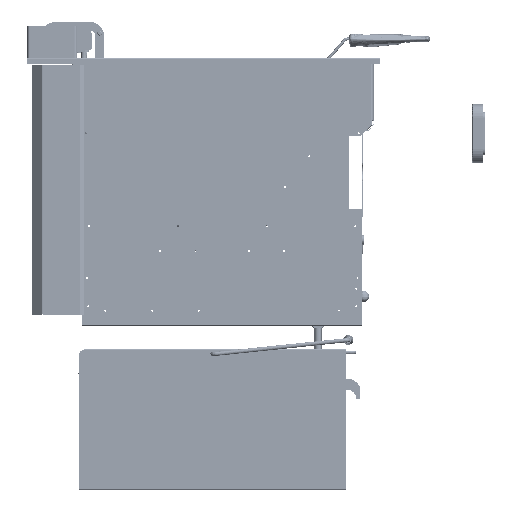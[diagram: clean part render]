
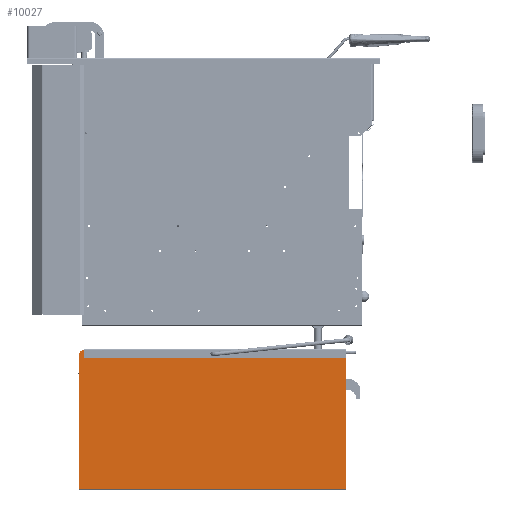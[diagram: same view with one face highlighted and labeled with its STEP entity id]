
A CAD part, left-side view. The second image highlights one B-rep face of the part: STEP entity #10027.
In plain terms, the highlighted planar face has unit normal (-1, 0, 0).
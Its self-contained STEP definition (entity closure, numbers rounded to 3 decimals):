
#1900=FACE_BOUND('',#29755,.T.);
#10027=ADVANCED_FACE('',(#19567,#1900),#154611,.T.);
#19567=FACE_OUTER_BOUND('',#29754,.T.);
#29754=EDGE_LOOP('',(#67554,#67555,#67556,#67557,#67558,#67559,#67560));
#29755=EDGE_LOOP('',(#67561,#67562));
#67554=ORIENTED_EDGE('',*,*,#98431,.F.);
#67555=ORIENTED_EDGE('',*,*,#98510,.F.);
#67556=ORIENTED_EDGE('',*,*,#98424,.F.);
#67557=ORIENTED_EDGE('',*,*,#98432,.F.);
#67558=ORIENTED_EDGE('',*,*,#98433,.F.);
#67559=ORIENTED_EDGE('',*,*,#98434,.F.);
#67560=ORIENTED_EDGE('',*,*,#98435,.F.);
#67561=ORIENTED_EDGE('',*,*,#98405,.T.);
#67562=ORIENTED_EDGE('',*,*,#98466,.F.);
#98405=EDGE_CURVE('',#147664,#147665,#126395,.T.);
#98424=EDGE_CURVE('',#147684,#147686,#116093,.T.);
#98431=EDGE_CURVE('',#147692,#147693,#116100,.T.);
#98432=EDGE_CURVE('',#147691,#147684,#116101,.T.);
#98433=EDGE_CURVE('',#147694,#147691,#116102,.T.);
#98434=EDGE_CURVE('',#147695,#147694,#116103,.T.);
#98435=EDGE_CURVE('',#147693,#147695,#116104,.T.);
#98466=EDGE_CURVE('',#147664,#147665,#126409,.T.);
#98510=EDGE_CURVE('',#147686,#147692,#126423,.T.);
#116093=B_SPLINE_CURVE_WITH_KNOTS('',1,(#437763,#437764),.UNSPECIFIED.,
 .F.,.F.,(2,2),(0.,227.),.UNSPECIFIED.);
#116100=B_SPLINE_CURVE_WITH_KNOTS('',1,(#437777,#437778),.UNSPECIFIED.,
 .F.,.F.,(2,2),(-0.5,0.),.UNSPECIFIED.);
#116101=B_SPLINE_CURVE_WITH_KNOTS('',1,(#437779,#437780),.UNSPECIFIED.,
 .F.,.F.,(2,2),(-455.,0.),.UNSPECIFIED.);
#116102=B_SPLINE_CURVE_WITH_KNOTS('',1,(#437781,#437782),.UNSPECIFIED.,
 .F.,.F.,(2,2),(-236.4,0.),.UNSPECIFIED.);
#116103=B_SPLINE_CURVE_WITH_KNOTS('',1,(#437783,#437784),.UNSPECIFIED.,
 .F.,.F.,(2,2),(-446.5,0.),.UNSPECIFIED.);
#116104=B_SPLINE_CURVE_WITH_KNOTS('',1,(#437785,#437786),.UNSPECIFIED.,
 .F.,.F.,(2,2),(-1.4,0.),.UNSPECIFIED.);
#126395=TRIMMED_CURVE($,#134639,(#437722),(#437723),.T.,.CARTESIAN.);
#126409=TRIMMED_CURVE($,#134653,(#437858),(#437859),.T.,.CARTESIAN.);
#126423=TRIMMED_CURVE($,#134667,(#437960),(#437961),.T.,.CARTESIAN.);
#134639=CIRCLE('',#172396,3.75);
#134653=CIRCLE('',#172410,3.75);
#134667=CIRCLE('',#172424,8.);
#147664=VERTEX_POINT('',#437641);
#147665=VERTEX_POINT('',#437642);
#147684=VERTEX_POINT('',#437661);
#147686=VERTEX_POINT('',#437663);
#147691=VERTEX_POINT('',#437668);
#147692=VERTEX_POINT('',#437669);
#147693=VERTEX_POINT('',#437670);
#147694=VERTEX_POINT('',#437671);
#147695=VERTEX_POINT('',#437672);
#154611=PLANE('',#172352);
#172352=AXIS2_PLACEMENT_3D('',#437593,#193493,$);
#172396=AXIS2_PLACEMENT_3D($,#437721,#193541,#193542);
#172410=AXIS2_PLACEMENT_3D($,#437857,#193569,#193570);
#172424=AXIS2_PLACEMENT_3D($,#437959,#193597,#193598);
#193493=DIRECTION('',(-1.,0.,0.));
#193541=DIRECTION('',(1.,0.,0.));
#193542=DIRECTION('',(0.,-1.,0.));
#193569=DIRECTION('',(-1.,0.,0.));
#193570=DIRECTION('',(0.,-1.,0.));
#193597=DIRECTION('',(1.,0.,0.));
#193598=DIRECTION('',(0.,1.,0.));
#437593=CARTESIAN_POINT('',(-171.,-300.965,377.04));
#437641=CARTESIAN_POINT('',(-171.,-31.715,345.4));
#437642=CARTESIAN_POINT('',(-171.,-24.215,345.4));
#437661=CARTESIAN_POINT('',(-171.,199.535,117.));
#437663=CARTESIAN_POINT('',(-171.,199.535,344.));
#437668=CARTESIAN_POINT('',(-171.,-255.465,117.));
#437669=CARTESIAN_POINT('',(-171.,191.535,352.));
#437670=CARTESIAN_POINT('',(-171.,191.035,352.));
#437671=CARTESIAN_POINT('',(-171.,-255.465,353.4));
#437672=CARTESIAN_POINT('',(-171.,191.035,353.4));
#437721=CARTESIAN_POINT('',(-171.,-27.965,345.4));
#437722=CARTESIAN_POINT('',(-171.,-31.715,345.4));
#437723=CARTESIAN_POINT('',(-171.,-24.215,345.4));
#437763=CARTESIAN_POINT('',(-171.,199.535,117.));
#437764=CARTESIAN_POINT('',(-171.,199.535,344.));
#437777=CARTESIAN_POINT('',(-171.,191.535,352.));
#437778=CARTESIAN_POINT('',(-171.,191.035,352.));
#437779=CARTESIAN_POINT('',(-171.,-255.465,117.));
#437780=CARTESIAN_POINT('',(-171.,199.535,117.));
#437781=CARTESIAN_POINT('',(-171.,-255.465,353.4));
#437782=CARTESIAN_POINT('',(-171.,-255.465,117.));
#437783=CARTESIAN_POINT('',(-171.,191.035,353.4));
#437784=CARTESIAN_POINT('',(-171.,-255.465,353.4));
#437785=CARTESIAN_POINT('',(-171.,191.035,352.));
#437786=CARTESIAN_POINT('',(-171.,191.035,353.4));
#437857=CARTESIAN_POINT('',(-171.,-27.965,345.4));
#437858=CARTESIAN_POINT('',(-171.,-31.715,345.4));
#437859=CARTESIAN_POINT('',(-171.,-24.215,345.4));
#437959=CARTESIAN_POINT('',(-171.,191.535,344.));
#437960=CARTESIAN_POINT('',(-171.,199.535,344.));
#437961=CARTESIAN_POINT('',(-171.,191.535,352.));
